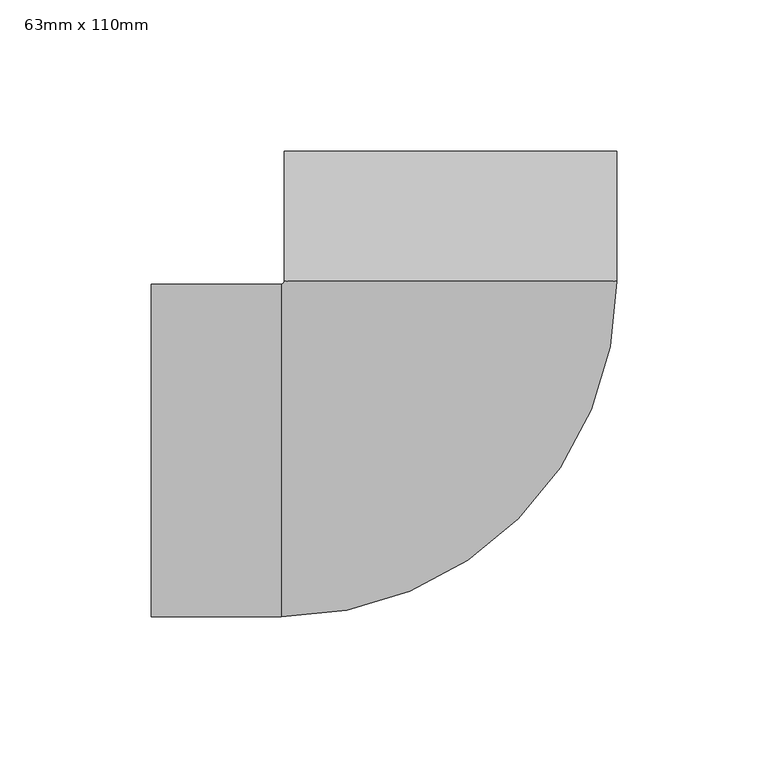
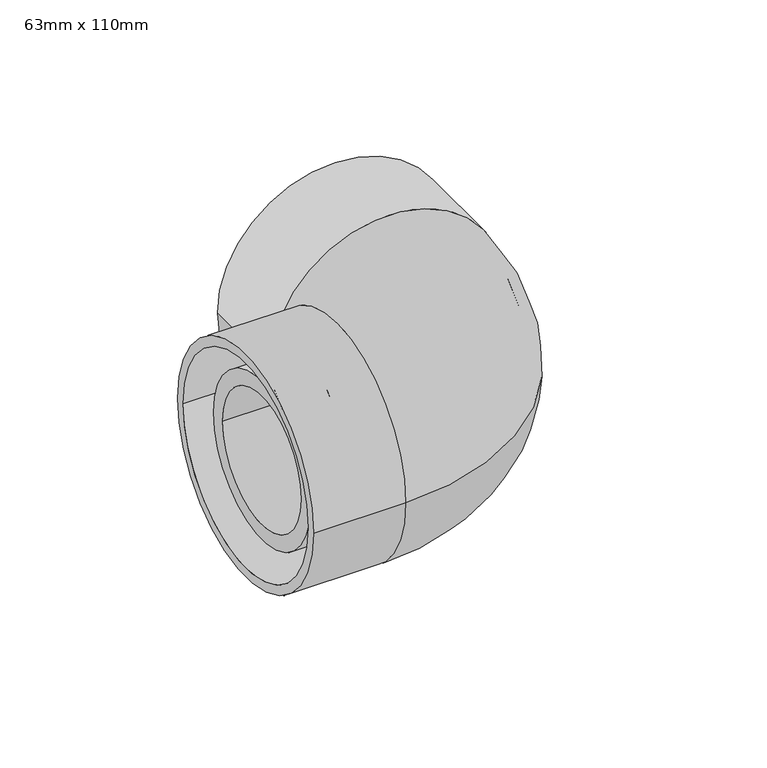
"""IFC4 building model written with IfcOpenShell, lengths in millimetres: pipe fitting geometry, Durapipe_PipeFittings_PLX_CloseFit_90Elbow : 63mm x 110mm."""

from ifc_helpers import new_model, si_unit, point, frame, origin, place, context, project, spatial, polyline, circle_curve, ellipse_curve, trimmed, source, transform, mapped, element, save
from ifc_brep_helpers import plane_surface, cylinder_surface, revolved_surface, advanced_brep


def pipe_fitting_63mm_x_110mm_e73a593b(model_context):
    return source(origin(), model_context, "Body", "AdvancedBrep", [
        advanced_brep(
        [(-99.0, -55.0, 0.0), (-99.0, 55.0, 0.0), (-99.0, -50.5, 0.0), (-99.0, 50.5, 0.0), (-56.0, -55.0, 0.0), (-56.0, 55.0, 0.0), (-56.0, -50.5, 0.0), (-56.0, 50.5, 0.0), (-55.0, 56.0, 0.0), (55.0, 56.0, 0.0), (-50.5, 56.0, 0.0), (50.5, 56.0, 0.0), (55.0, 99.0, 0.0), (-55.0, 99.0, 0.0), (50.5, 99.0, 0.0), (-50.5, 99.0, 0.0)],
        [
            (0, 1, circle_curve(frame((-99.0, 0.0, 0.0), z_axis=(-1.0, 0.0, 0.0), x_axis=(0.0, 1.0, 0.0)), 55.0)),
            (1, 0, circle_curve(frame((-99.0, 0.0, 0.0), z_axis=(-1.0, 0.0, 0.0), x_axis=(0.0, 1.0, 0.0)), 55.0)),
            (2, 3, circle_curve(frame((-99.0, 0.0, 0.0), z_axis=(1.0, 0.0, 0.0), x_axis=(0.0, 1.0, 0.0)), 50.5)),
            (3, 2, circle_curve(frame((-99.0, 0.0, 0.0), z_axis=(1.0, 0.0, 0.0), x_axis=(0.0, 1.0, 0.0)), 50.5)),
            (0, 4),
            (4, 5, circle_curve(frame((-56.0, 0.0, 0.0), z_axis=(-1.0, 0.0, 0.0), x_axis=(0.0, 1.0, 0.0)), 55.0)),
            (5, 1),
            (5, 4, circle_curve(frame((-56.0, 0.0, 0.0), z_axis=(-1.0, 0.0, 0.0), x_axis=(0.0, 1.0, 0.0)), 55.0)),
            (2, 6),
            (6, 7, circle_curve(frame((-56.0, 0.0, 0.0), z_axis=(1.0, 0.0, 0.0), x_axis=(0.0, 1.0, 0.0)), 50.5)),
            (7, 3),
            (7, 6, circle_curve(frame((-56.0, 0.0, 0.0), z_axis=(1.0, 0.0, 0.0), x_axis=(0.0, 1.0, 0.0)), 50.5)),
            (8, 5, circle_curve(frame((-56.0, 56.0, 0.0), z_axis=(0.0, 0.0, -1.0), x_axis=(0.0, -1.0, 0.0)), 1.0)),
            (4, 9, circle_curve(frame((-56.0, 56.0, 0.0), z_axis=(0.0, 0.0, 1.0), x_axis=(0.0, -1.0, 0.0)), 111.0)),
            (9, 8, circle_curve(frame((0.0, 56.0, 0.0), z_axis=(0.0, -1.0, 0.0), x_axis=(-1.0, 0.0, 0.0)), 55.0)),
            (8, 9, circle_curve(frame((0.0, 56.0, 0.0), z_axis=(0.0, -1.0, 0.0), x_axis=(-1.0, 0.0, 0.0)), 55.0)),
            (10, 7, circle_curve(frame((-56.0, 56.0, 0.0), z_axis=(0.0, 0.0, -1.0), x_axis=(0.0, -1.0, 0.0)), 5.5)),
            (6, 11, circle_curve(frame((-56.0, 56.0, 0.0), z_axis=(0.0, 0.0, 1.0), x_axis=(0.0, -1.0, 0.0)), 106.5)),
            (11, 10, circle_curve(frame((0.0, 56.0, 0.0), z_axis=(0.0, 1.0, 0.0), x_axis=(-1.0, 0.0, 0.0)), 50.5)),
            (10, 11, circle_curve(frame((0.0, 56.0, 0.0), z_axis=(0.0, 1.0, 0.0), x_axis=(-1.0, 0.0, 0.0)), 50.5)),
            (12, 13, circle_curve(frame((0.0, 99.0, 0.0), z_axis=(0.0, 1.0, 0.0), x_axis=(-1.0, 0.0, 0.0)), 55.0)),
            (13, 12, circle_curve(frame((0.0, 99.0, 0.0), z_axis=(0.0, 1.0, 0.0), x_axis=(-1.0, 0.0, 0.0)), 55.0)),
            (14, 15, circle_curve(frame((0.0, 99.0, 0.0), z_axis=(0.0, -1.0, 0.0), x_axis=(-1.0, 0.0, 0.0)), 50.5)),
            (15, 14, circle_curve(frame((0.0, 99.0, 0.0), z_axis=(0.0, -1.0, 0.0), x_axis=(-1.0, 0.0, 0.0)), 50.5)),
            (9, 12),
            (13, 8),
            (11, 14),
            (15, 10),
        ],
        [
            plane_surface(frame((-99.0, 0.0, 0.0), z_axis=(-1.0, 0.0, 0.0), x_axis=(0.0, 0.0, 1.0))),
            cylinder_surface(frame((-99.0, 0.0, 0.0), z_axis=(-1.0, 0.0, 0.0), x_axis=(0.0, 1.0, 0.0)), 55.0),
            revolved_surface(polyline([(-56.0, 50.5, 0.0), (-99.0, 50.5, 0.0)]), (-99.0, 0.0, 0.0), (1.0, 0.0, 0.0)),
            revolved_surface(trimmed(ellipse_curve(frame((-56.0, 0.0, 0.0), z_axis=(-1.0, 0.0, 0.0), x_axis=(0.0, 1.0, 0.0)), 55.0, 55.0), [point((-56.0, -55.0, 0.0))], [point((-56.0, 55.0, 0.0))], True, "CARTESIAN"), (-56.0, 56.0, 0.0), (0.0, 0.0, 1.0)),
            revolved_surface(trimmed(ellipse_curve(frame((-56.0, 0.0, 0.0), z_axis=(-1.0, 0.0, 0.0), x_axis=(0.0, 1.0, 0.0)), 55.0, 55.0), [point((-56.0, 55.0, 0.0))], [point((-56.0, -55.0, 0.0))], True, "CARTESIAN"), (-56.0, 56.0, 0.0), (0.0, 0.0, 1.0)),
            revolved_surface(trimmed(ellipse_curve(frame((-56.0, 0.0, 0.0), z_axis=(1.0, 0.0, 0.0), x_axis=(0.0, 1.0, 0.0)), 50.5, 50.5), [point((-56.0, -50.5, 0.0))], [point((-56.0, 50.5, 0.0))], True, "CARTESIAN"), (-56.0, 56.0, 0.0), (0.0, 0.0, 1.0)),
            revolved_surface(trimmed(ellipse_curve(frame((-56.0, 0.0, 0.0), z_axis=(1.0, 0.0, 0.0), x_axis=(0.0, 1.0, 0.0)), 50.5, 50.5), [point((-56.0, 50.5, 0.0))], [point((-56.0, -50.5, 0.0))], True, "CARTESIAN"), (-56.0, 56.0, 0.0), (0.0, 0.0, 1.0)),
            plane_surface(frame((0.0, 99.0, 0.0), z_axis=(0.0, 1.0, 0.0), x_axis=(0.0, 0.0, 1.0))),
            cylinder_surface(frame((0.0, 56.0, 0.0), z_axis=(0.0, -1.0, 0.0), x_axis=(-1.0, 0.0, 0.0)), 55.0),
            revolved_surface(polyline([(-50.5, 99.0, 0.0), (-50.5, 56.0, 0.0)]), (0.0, 56.0, 0.0), (0.0, 1.0, 0.0)),
        ],
        [
            (0, [[1, 2], [3, 4]]),
            (1, [[-1, 5, 6, 7]]),
            (1, [[-2, -7, 8, -5]]),
            (2, [[-3, 9, 10, 11]]),
            (2, [[-4, -11, 12, -9]]),
            (3, [[13, -6, 14, 15]]),
            (4, [[-14, -8, -13, 16]]),
            (5, [[17, -10, 18, 19]]),
            (6, [[-18, -12, -17, 20]]),
            (7, [[21, 22], [23, 24]]),
            (8, [[-15, 25, -22, 26]]),
            (8, [[-16, -26, -21, -25]]),
            (9, [[-19, 27, -24, 28]]),
            (9, [[-20, -28, -23, -27]]),
        ],
    ),
        advanced_brep(
        [(-40.0, 39.0, 0.0), (-40.0, -39.0, 0.0), (39.0, 40.0, 0.0), (-39.0, 40.0, 0.0), (-91.5, -39.0, 0.0), (-91.5, 39.0, 0.0), (-91.5, -31.7, 0.0), (-91.5, 31.7, 0.0), (-39.0, 91.5, 0.0), (39.0, 91.5, 0.0), (0.0, 91.5, 31.7), (0.0, 91.5, -31.7), (-47.5, 31.7, 0.0), (-47.5, -31.7, 0.0), (0.0, 47.5, -31.7), (0.0, 47.5, 31.7)],
        [
            (0, 1, circle_curve(frame((-40.0, 0.0, 0.0), z_axis=(1.0, 0.0, 0.0), x_axis=(0.0, 1.0, 0.0)), 39.0)),
            (1, 2, circle_curve(frame((-40.0, 40.0, 0.0), z_axis=(0.0, 0.0, 1.0), x_axis=(0.0, -1.0, 0.0)), 79.0)),
            (2, 3, circle_curve(frame((0.0, 40.0, 0.0), z_axis=(0.0, -1.0, 0.0), x_axis=(-1.0, 0.0, 0.0)), 39.0)),
            (3, 0, circle_curve(frame((-40.0, 40.0, 0.0), z_axis=(0.0, 0.0, -1.0), x_axis=(0.0, -1.0, 0.0)), 1.0)),
            (1, 0, circle_curve(frame((-40.0, 0.0, 0.0), z_axis=(1.0, 0.0, 0.0), x_axis=(0.0, 1.0, 0.0)), 39.0)),
            (3, 2, circle_curve(frame((0.0, 40.0, 0.0), z_axis=(0.0, -1.0, 0.0), x_axis=(-1.0, 0.0, 0.0)), 39.0)),
            (4, 5, circle_curve(frame((-91.5, 0.0, 0.0), z_axis=(-1.0, 0.0, 0.0), x_axis=(0.0, 1.0, 0.0)), 39.0)),
            (5, 4, circle_curve(frame((-91.5, 0.0, 0.0), z_axis=(-1.0, 0.0, 0.0), x_axis=(0.0, 1.0, 0.0)), 39.0)),
            (6, 7, circle_curve(frame((-91.5, 0.0, 0.0), z_axis=(1.0, 0.0, 0.0), x_axis=(0.0, -1.0, 0.0)), 31.7)),
            (7, 6, circle_curve(frame((-91.5, 0.0, 0.0), z_axis=(1.0, 0.0, 0.0), x_axis=(0.0, -1.0, 0.0)), 31.7)),
            (8, 9, circle_curve(frame((0.0, 91.5, 0.0), z_axis=(0.0, 1.0, 0.0), x_axis=(-1.0, 0.0, 0.0)), 39.0)),
            (9, 8, circle_curve(frame((0.0, 91.5, 0.0), z_axis=(0.0, 1.0, 0.0), x_axis=(-1.0, 0.0, 0.0)), 39.0)),
            (10, 11, circle_curve(frame((0.0, 91.5, 0.0), z_axis=(0.0, -1.0, 0.0), x_axis=(0.0, 0.0, 1.0)), 31.7)),
            (11, 10, circle_curve(frame((0.0, 91.5, 0.0), z_axis=(0.0, -1.0, 0.0), x_axis=(0.0, 0.0, 1.0)), 31.7)),
            (0, 5),
            (4, 1),
            (2, 9),
            (8, 3),
            (12, 13, circle_curve(frame((-47.5, 0.0, 0.0), z_axis=(-1.0, 0.0, 0.0), x_axis=(0.0, -1.0, 0.0)), 31.7)),
            (13, 12, circle_curve(frame((-47.5, 0.0, 0.0), z_axis=(-1.0, 0.0, 0.0), x_axis=(0.0, -1.0, 0.0)), 31.7)),
            (12, 7),
            (6, 13),
            (14, 15, circle_curve(frame((0.0, 47.5, 0.0), z_axis=(0.0, 1.0, 0.0), x_axis=(0.0, 0.0, 1.0)), 31.7)),
            (15, 14, circle_curve(frame((0.0, 47.5, 0.0), z_axis=(0.0, 1.0, 0.0), x_axis=(0.0, 0.0, 1.0)), 31.7)),
            (14, 11),
            (10, 15),
        ],
        [
            revolved_surface(trimmed(ellipse_curve(frame((-40.0, 0.0, 0.0), z_axis=(-1.0, 0.0, 0.0), x_axis=(0.0, 1.0, 0.0)), 39.0, 39.0), [point((-40.0, -39.0, 0.0))], [point((-40.0, 39.0, 0.0))], True, "CARTESIAN"), (-40.0, 40.0, 0.0), (0.0, 0.0, 1.0)),
            revolved_surface(trimmed(ellipse_curve(frame((-40.0, 0.0, 0.0), z_axis=(-1.0, 0.0, 0.0), x_axis=(0.0, 1.0, 0.0)), 39.0, 39.0), [point((-40.0, 39.0, 0.0))], [point((-40.0, -39.0, 0.0))], True, "CARTESIAN"), (-40.0, 40.0, 0.0), (0.0, 0.0, 1.0)),
            plane_surface(frame((-91.5, 0.0, 0.0), z_axis=(-1.0, 0.0, 0.0), x_axis=(0.0, 0.0, 1.0))),
            plane_surface(frame((0.0, 91.5, 0.0), z_axis=(0.0, 1.0, 0.0), x_axis=(0.0, 0.0, 1.0))),
            cylinder_surface(frame((-91.5, 0.0, 0.0), z_axis=(-1.0, 0.0, 0.0), x_axis=(0.0, 1.0, 0.0)), 39.0),
            cylinder_surface(frame((0.0, 40.0, 0.0), z_axis=(0.0, -1.0, 0.0), x_axis=(-1.0, 0.0, 0.0)), 39.0),
            plane_surface(frame((-47.5, -31.7, 0.0), z_axis=(-1.0, 0.0, 0.0), x_axis=(0.0, 0.0, -1.0))),
            revolved_surface(polyline([(-91.5, -31.7, 0.0), (-47.5, -31.7, 0.0)]), (-47.5, 0.0, 0.0), (-1.0, 0.0, 0.0)),
            plane_surface(frame((0.0, 47.5, 31.7), z_axis=(0.0, 1.0, 0.0), x_axis=(-1.0, 0.0, 0.0))),
            revolved_surface(polyline([(0.0, 91.5, 31.7), (0.0, 47.5, 31.7)]), (0.0, 47.5, 0.0), (0.0, 1.0, 0.0)),
        ],
        [
            (0, [[1, 2, 3, 4]]),
            (1, [[5, -4, 6, -2]]),
            (2, [[7, 8], [9, 10]]),
            (3, [[11, 12], [13, 14]]),
            (4, [[-1, 15, -7, 16]]),
            (4, [[-5, -16, -8, -15]]),
            (5, [[-3, 17, -11, 18]]),
            (5, [[-6, -18, -12, -17]]),
            (6, [[19, 20]]),
            (7, [[-19, 21, -9, 22]]),
            (7, [[-20, -22, -10, -21]]),
            (8, [[23, 24]]),
            (9, [[-23, 25, -13, 26]]),
            (9, [[-24, -26, -14, -25]]),
        ],
    ),
    ])


if __name__ == "__main__":
    model = new_model("IFC4")
    model_context = context("Model", 3, world=origin())
    ifc_project = project(units=[si_unit("LENGTHUNIT", "METRE", prefix="MILLI")], contexts=[model_context])
    site = spatial("IfcSite", under=ifc_project)
    building = spatial("IfcBuilding", under=site)
    placement = place(None, origin())
    pipe_fitting_63mm_x_110mm_shape = pipe_fitting_63mm_x_110mm_e73a593b(model_context)
    element("IfcPipeFitting", 1, ObjectType="Durapipe_PipeFittings_PLX_CloseFit_90Elbow : 63mm x 110mm", at=placement, inside=building, context=model_context, shape_type="MappedRepresentation", body=[
        mapped(pipe_fitting_63mm_x_110mm_shape, transform((0.0, 0.0, 0.0), x_axis=(1.0, 0.0, 0.0), y_axis=(0.0, 1.0, 0.0), z_axis=(0.0, 0.0, 1.0))),
    ])
    save(model, "model.ifc")
